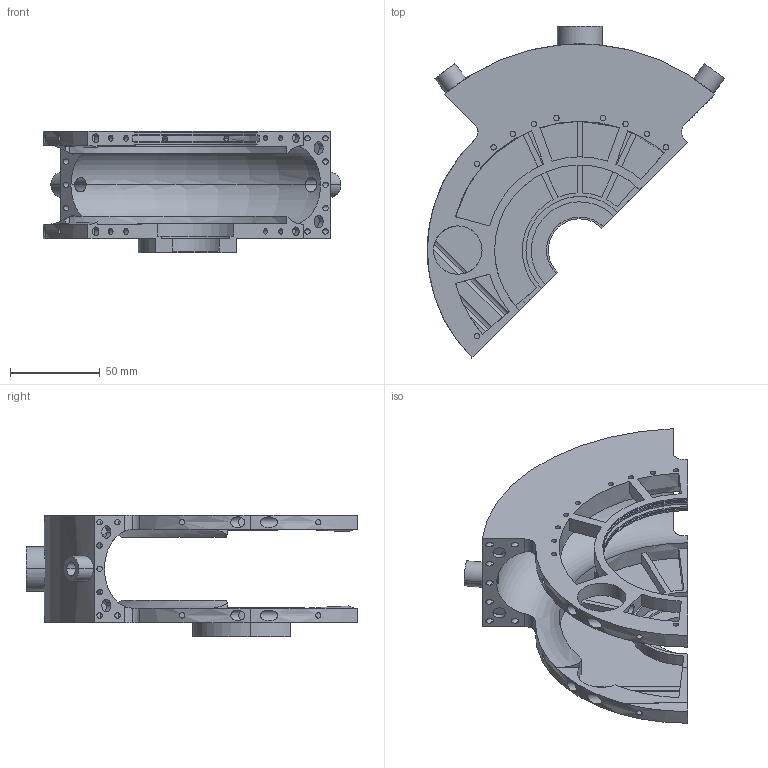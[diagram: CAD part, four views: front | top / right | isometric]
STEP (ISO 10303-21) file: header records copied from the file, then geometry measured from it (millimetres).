
FILE_DESCRIPTION(('STEP AP214'),'1');
FILE_NAME('C:/Users/mashimo/Documents/円弧動エンジン/ボア4.4ｃｍ/TurboCAD/3D/tmp0.STEP','2024-01-29T07:56:35',(' '),(' '),'Spatial InterOp 3D',' ',' ');
FILE_SCHEMA(('automotive_design'));
Length unit declared in the file: millimetre
Products named in the file (1): 1
Bounding box: 165.82 x 185.1 x 68 mm (x, y, z)
Volume: 176090.1 mm3; surface area: 126793 mm2
Topology: 1 solids, 1 shells, 395 faces, 1147 edges, 768 vertices
Faces by surface type: cylinder 236, plane 141, torus 18
Entity records: 18938 total; most frequent: CARTESIAN_POINT 4767, DIRECTION 2417, ORIENTED_EDGE 2294, EDGE_CURVE 1147, AXIS2_PLACEMENT_3D 967, VERTEX_POINT 768, EDGE_LOOP 485, LINE 483
